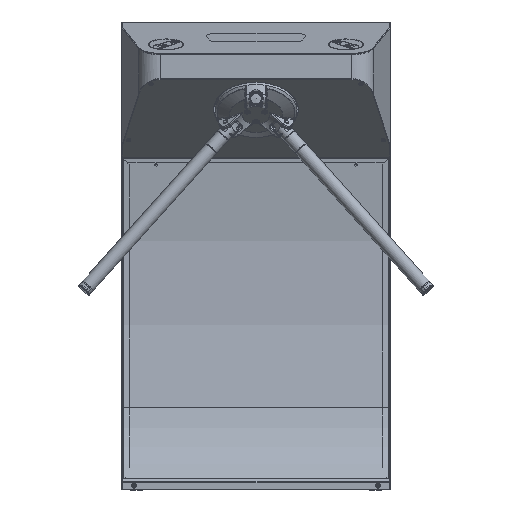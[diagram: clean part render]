
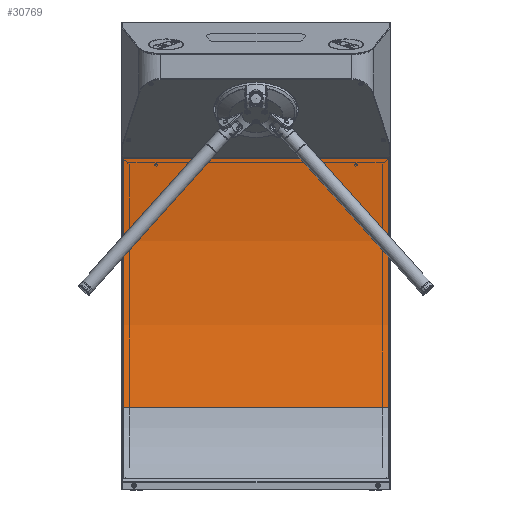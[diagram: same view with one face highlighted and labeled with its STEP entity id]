
A CAD part, front view. The second image highlights one B-rep face of the part: STEP entity #30769.
In plain terms, the highlighted cylindrical face has radius 1659.22 mm (diameter 3318.44 mm), a partial arc.
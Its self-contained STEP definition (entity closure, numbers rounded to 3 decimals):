
#3876=CYLINDRICAL_SURFACE('',#33178,1659.222);
#4500=CIRCLE('',#33177,1659.222);
#4501=CIRCLE('',#33179,1659.222);
#6212=LINE('',#44577,#7718);
#6218=LINE('',#44625,#7724);
#7718=VECTOR('',#36509,1000.);
#7724=VECTOR('',#36575,1000.);
#9366=ORIENTED_EDGE('',*,*,#17897,.T.);
#9367=ORIENTED_EDGE('',*,*,#17898,.F.);
#9368=ORIENTED_EDGE('',*,*,#17899,.F.);
#9369=ORIENTED_EDGE('',*,*,#17873,.T.);
#17873=EDGE_CURVE('',#22157,#22156,#6212,.T.);
#17897=EDGE_CURVE('',#22156,#22168,#4500,.T.);
#17898=EDGE_CURVE('',#22169,#22168,#6218,.F.);
#17899=EDGE_CURVE('',#22157,#22169,#4501,.T.);
#22156=VERTEX_POINT('',#44574);
#22157=VERTEX_POINT('',#44578);
#22168=VERTEX_POINT('',#44622);
#22169=VERTEX_POINT('',#44626);
#25973=EDGE_LOOP('',(#9366,#9367,#9368,#9369));
#28112=FACE_BOUND('',#25973,.T.);
#30769=ADVANCED_FACE('',(#28112),#3876,.F.);
#33177=AXIS2_PLACEMENT_3D('',#44623,#36571,#36572);
#33178=AXIS2_PLACEMENT_3D('',#44624,#36573,#36574);
#33179=AXIS2_PLACEMENT_3D('',#44627,#36576,#36577);
#36509=DIRECTION('',(0.,0.,-1.));
#36571=DIRECTION('',(0.,0.,-1.));
#36572=DIRECTION('',(0.,-1.,0.));
#36573=DIRECTION('',(0.,0.,-1.));
#36574=DIRECTION('',(-1.,0.,0.));
#36575=DIRECTION('',(0.,0.,1.));
#36576=DIRECTION('',(0.,0.,-1.));
#36577=DIRECTION('',(0.,-1.,0.));
#44574=CARTESIAN_POINT('',(186.502,0.,-449.));
#44577=CARTESIAN_POINT('',(186.502,0.,0.));
#44578=CARTESIAN_POINT('',(186.502,0.,149.));
#44622=CARTESIAN_POINT('',(-366.486,94.862,-449.));
#44623=CARTESIAN_POINT('',(186.502,1659.222,-449.));
#44624=CARTESIAN_POINT('',(186.502,1659.222,0.));
#44625=CARTESIAN_POINT('',(-366.486,94.862,149.));
#44626=CARTESIAN_POINT('',(-366.486,94.862,149.));
#44627=CARTESIAN_POINT('',(186.502,1659.222,149.));
